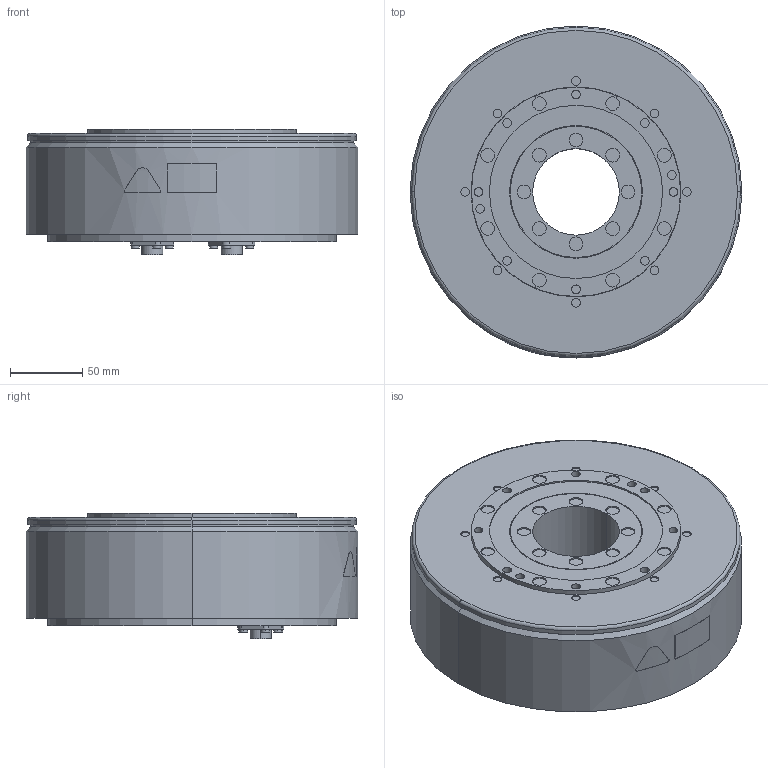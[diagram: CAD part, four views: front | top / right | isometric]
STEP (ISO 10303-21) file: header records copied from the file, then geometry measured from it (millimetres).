
FILE_DESCRIPTION (( 'STEP AP203' ), '1' );
FILE_NAME ('sgm7f_16d_a1_.STEP', '2016-02-25T00:53:29', ( '' ), ( '' ), 'SwSTEP 2.0', 'SolidWorks 2010', '' );
FILE_SCHEMA (( 'CONFIG_CONTROL_DESIGN' ));
Length unit declared in the file: millimetre
Products named in the file (1): sgm7f_16d_a1_
Bounding box: 230 x 230 x 87.1 mm (x, y, z)
Volume: 2867850 mm3; surface area: 157426.8 mm2
Topology: 1 solids, 1 shells, 371 faces, 802 edges, 532 vertices
Faces by surface type: cylinder 216, plane 144, bspline 5, cone 4, torus 2
Entity records: 10727 total; most frequent: CARTESIAN_POINT 2103, DIRECTION 1972, ORIENTED_EDGE 1604, AXIS2_PLACEMENT_3D 819, EDGE_CURVE 802, VERTEX_POINT 532, EDGE_LOOP 472, CIRCLE 452
